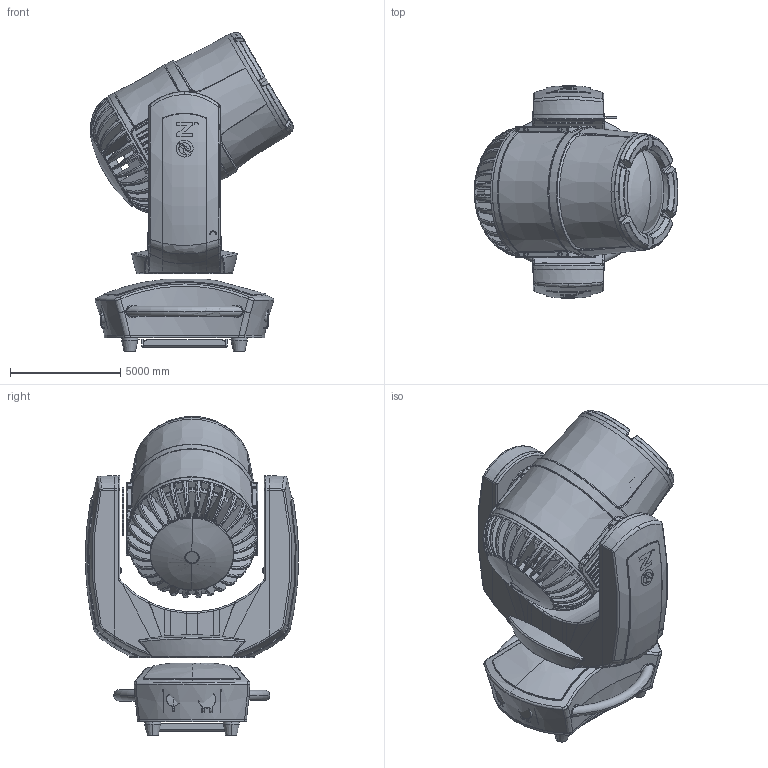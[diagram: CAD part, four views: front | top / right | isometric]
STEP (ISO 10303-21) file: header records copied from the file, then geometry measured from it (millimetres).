
FILE_DESCRIPTION((''),'2;1');
FILE_NAME('PRT0001','2020-02-19T13:55:04',('mr'),(''),'CREO PARAMETRIC BY PTC INC, 2019080','CREO PARAMETRIC BY PTC INC, 2019080','');
FILE_SCHEMA(('AUTOMOTIVE_DESIGN { 1 0 10303 214 1 1 1 1 }'));
Length unit declared in the file: millimetre
Products named in the file (1): PRT0001
Bounding box: 9229.23 x 9635.14 x 14445.16 mm (x, y, z)
Volume: 2491035927.4 mm3; surface area: 807781223.6 mm2
Topology: 2 solids, 60 shells, 1861 faces, 6436 edges, 4461 vertices
Faces by surface type: torus 458, plane 454, cylinder 437, bspline 280, cone 197, extrusion 19, sphere 16
Entity records: 97001 total; most frequent: CARTESIAN_POINT 47094, ORIENTED_EDGE 10694, DIRECTION 9026, EDGE_CURVE 6419, VERTEX_POINT 4461, AXIS2_PLACEMENT_3D 3647, B_SPLINE_CURVE_WITH_KNOTS 2650, CIRCLE 2078
